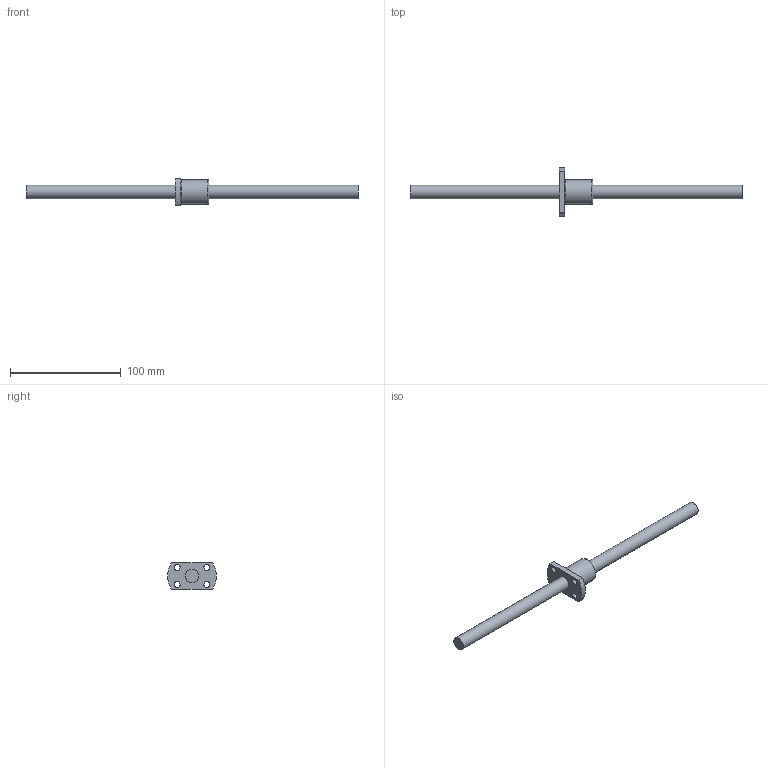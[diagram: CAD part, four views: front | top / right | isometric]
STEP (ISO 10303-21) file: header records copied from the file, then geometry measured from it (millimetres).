
FILE_DESCRIPTION((''),'2;1');
FILE_NAME('D:\製品 (図面)\カタログ用3D\ネジ関連\STEP形式\TMK\TMK12.stp','2010-06-02T15:22:07',('Tsuchiya'),(''),'Autodesk Inventor 10','Autodesk Inventor 10','');
FILE_SCHEMA(('AUTOMOTIVE_DESIGN { 1 0 10303 214 1 1 1 1 }'));
Length unit declared in the file: millimetre
Products named in the file (3): TMK12; TMK121; TMK122
Assembly tree (2 placements, depth 2):
  TMK12
    TMK121
    TMK122
Bounding box: 300 x 43.85 x 24 mm (x, y, z)
Volume: 44575.8 mm3; surface area: 16904.4 mm2
Topology: 2 solids, 2 shells, 18 faces, 41 edges, 28 vertices
Faces by surface type: plane 7, cylinder 5, bspline 5, torus 1
Full cylindrical faces by diameter (mm): 12 x2, 22 x1
Entity records: 628 total; most frequent: CARTESIAN_POINT 187, DIRECTION 84, ORIENTED_EDGE 56, AXIS2_PLACEMENT_3D 38, EDGE_LOOP 38, EDGE_CURVE 28, VERTEX_POINT 24, CIRCLE 20
